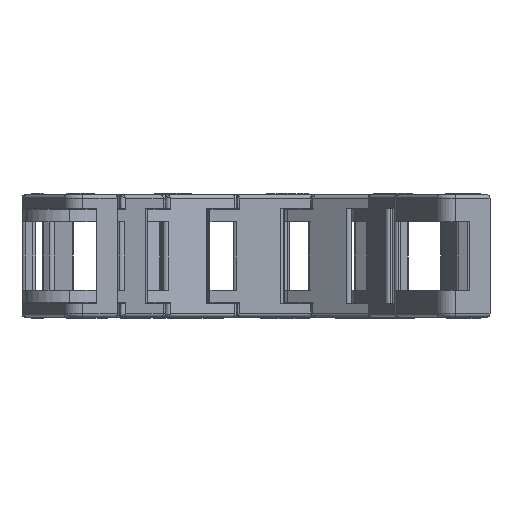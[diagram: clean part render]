
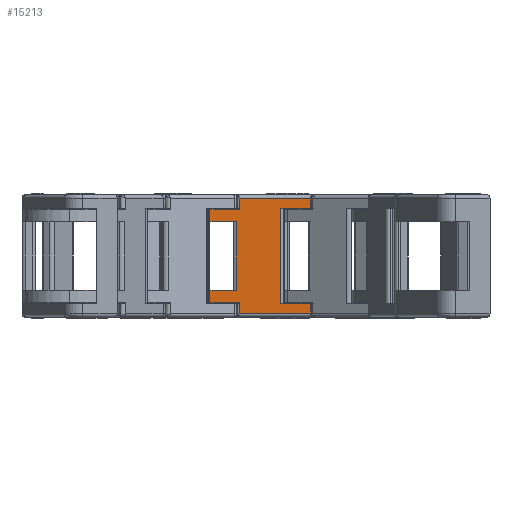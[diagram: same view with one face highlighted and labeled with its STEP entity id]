
A CAD part, left-side view. The second image highlights one B-rep face of the part: STEP entity #15213.
In plain terms, the highlighted planar face has unit normal (-0.999, 0.052, 0) as drawn and (0, -1, 0) by its records, which use the part's own axes.
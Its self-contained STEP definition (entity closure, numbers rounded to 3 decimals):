
#132 = EDGE_CURVE ( 'NONE', #16552, #5657, #16233, .T. ) ;
#165 = VERTEX_POINT ( 'NONE', #7979 ) ;
#335 = DIRECTION ( 'NONE',  ( 1., 0., 0. ) ) ;
#441 = EDGE_CURVE ( 'NONE', #10027, #6988, #15550, .T. ) ;
#669 = ORIENTED_EDGE ( 'NONE', *, *, #10591, .F. ) ;
#813 = CARTESIAN_POINT ( 'NONE',  ( -3.188, -7., 2.2 ) ) ;
#820 = CARTESIAN_POINT ( 'NONE',  ( 7.5, -7., 0.5 ) ) ;
#1014 = EDGE_CURVE ( 'NONE', #6988, #6779, #14643, .T. ) ;
#1246 = DIRECTION ( 'NONE',  ( 0., 0., 1. ) ) ;
#1948 = CARTESIAN_POINT ( 'NONE',  ( -3.188, -7., 15.8 ) ) ;
#2017 = DIRECTION ( 'NONE',  ( 0., 0., -1. ) ) ;
#2077 = DIRECTION ( 'NONE',  ( 0., 0., 1. ) ) ;
#2084 = VERTEX_POINT ( 'NONE', #5328 ) ;
#2241 = EDGE_CURVE ( 'NONE', #2859, #165, #12353, .T. ) ;
#2354 = CARTESIAN_POINT ( 'NONE',  ( -3.188, -7., 14. ) ) ;
#2414 = VERTEX_POINT ( 'NONE', #6615 ) ;
#2493 = ORIENTED_EDGE ( 'NONE', *, *, #13894, .T. ) ;
#2604 = EDGE_CURVE ( 'NONE', #2084, #165, #11972, .T. ) ;
#2743 = VECTOR ( 'NONE', #12663, 1000. ) ;
#2759 = LINE ( 'NONE', #10015, #2743 ) ;
#2859 = VERTEX_POINT ( 'NONE', #12789 ) ;
#2927 = EDGE_CURVE ( 'NONE', #14038, #2859, #11318, .T. ) ;
#3570 = DIRECTION ( 'NONE',  ( 1., 0., 0. ) ) ;
#4030 = DIRECTION ( 'NONE',  ( 0., 0., -1. ) ) ;
#4228 = ORIENTED_EDGE ( 'NONE', *, *, #2241, .T. ) ;
#4243 = CARTESIAN_POINT ( 'NONE',  ( -7.5, -7., 4. ) ) ;
#4255 = CARTESIAN_POINT ( 'NONE',  ( -7.5, -7., 17.5 ) ) ;
#4361 = ORIENTED_EDGE ( 'NONE', *, *, #16457, .T. ) ;
#4431 = DIRECTION ( 'NONE',  ( 0., 0., -1. ) ) ;
#4566 = ORIENTED_EDGE ( 'NONE', *, *, #2927, .T. ) ;
#5174 = ORIENTED_EDGE ( 'NONE', *, *, #10343, .F. ) ;
#5258 = ORIENTED_EDGE ( 'NONE', *, *, #2604, .F. ) ;
#5284 = CARTESIAN_POINT ( 'NONE',  ( -3.601, -7., 9. ) ) ;
#5328 = CARTESIAN_POINT ( 'NONE',  ( -7.5, -7., 4. ) ) ;
#5412 = VERTEX_POINT ( 'NONE', #8232 ) ;
#5657 = VERTEX_POINT ( 'NONE', #14730 ) ;
#5703 = CARTESIAN_POINT ( 'NONE',  ( -3.188, -7., 2.2 ) ) ;
#5792 = LINE ( 'NONE', #13950, #5858 ) ;
#5850 = DIRECTION ( 'NONE',  ( 1., 0., 0. ) ) ;
#5858 = VECTOR ( 'NONE', #9973, 1000. ) ;
#5913 = DIRECTION ( 'NONE',  ( 1., 0., 0. ) ) ;
#5939 = CARTESIAN_POINT ( 'NONE',  ( -3.188, -7., 4. ) ) ;
#6059 = CARTESIAN_POINT ( 'NONE',  ( -7.5, -7., 14. ) ) ;
#6088 = CARTESIAN_POINT ( 'NONE',  ( -7.5, -7., 14. ) ) ;
#6120 = VECTOR ( 'NONE', #14433, 1000. ) ;
#6136 = LINE ( 'NONE', #7947, #6120 ) ;
#6214 = DIRECTION ( 'NONE',  ( 0., 0., 1. ) ) ;
#6615 = CARTESIAN_POINT ( 'NONE',  ( -7.5, -7., 2.2 ) ) ;
#6779 = VERTEX_POINT ( 'NONE', #13124 ) ;
#6903 = DIRECTION ( 'NONE',  ( 0., 1., 0. ) ) ;
#6988 = VERTEX_POINT ( 'NONE', #12377 ) ;
#7205 = CARTESIAN_POINT ( 'NONE',  ( -7.5, -7., 14. ) ) ;
#7630 = ORIENTED_EDGE ( 'NONE', *, *, #132, .F. ) ;
#7947 = CARTESIAN_POINT ( 'NONE',  ( -7.5, -7., 2. ) ) ;
#7979 = CARTESIAN_POINT ( 'NONE',  ( -3.601, -7., 4. ) ) ;
#8007 = FACE_OUTER_BOUND ( 'NONE', #15708, .T. ) ;
#8232 = CARTESIAN_POINT ( 'NONE',  ( -7.5, -7., 15.8 ) ) ;
#8241 = EDGE_CURVE ( 'NONE', #5412, #16998, #2759, .T. ) ;
#8336 = CARTESIAN_POINT ( 'NONE',  ( -7.5, -7., 4. ) ) ;
#8471 = CARTESIAN_POINT ( 'NONE',  ( -7.5, -7., 4. ) ) ;
#9219 = VECTOR ( 'NONE', #5913, 1000. ) ;
#9315 = LINE ( 'NONE', #15197, #9219 ) ;
#9632 = CARTESIAN_POINT ( 'NONE',  ( -3.188, -7., 0.5 ) ) ;
#9922 = ORIENTED_EDGE ( 'NONE', *, *, #10777, .T. ) ;
#9973 = DIRECTION ( 'NONE',  ( 0., 0., 1. ) ) ;
#10015 = CARTESIAN_POINT ( 'NONE',  ( -3.188, -7., 15.8 ) ) ;
#10027 = VERTEX_POINT ( 'NONE', #16026 ) ;
#10208 = VERTEX_POINT ( 'NONE', #813 ) ;
#10343 = EDGE_CURVE ( 'NONE', #13594, #14015, #16467, .T. ) ;
#10377 = LINE ( 'NONE', #5703, #10442 ) ;
#10442 = VECTOR ( 'NONE', #16312, 1000. ) ;
#10591 = EDGE_CURVE ( 'NONE', #16998, #16552, #16074, .T. ) ;
#10777 = EDGE_CURVE ( 'NONE', #2084, #2414, #15786, .T. ) ;
#10996 = VECTOR ( 'NONE', #2017, 1000. ) ;
#11052 = LINE ( 'NONE', #5939, #10996 ) ;
#11208 = VECTOR ( 'NONE', #5850, 1000. ) ;
#11318 = LINE ( 'NONE', #7205, #11208 ) ;
#11462 = EDGE_CURVE ( 'NONE', #14038, #5412, #14612, .T. ) ;
#11777 = VECTOR ( 'NONE', #335, 1000. ) ;
#11895 = VERTEX_POINT ( 'NONE', #9632 ) ;
#11900 = ORIENTED_EDGE ( 'NONE', *, *, #1014, .T. ) ;
#11903 = ORIENTED_EDGE ( 'NONE', *, *, #13561, .T. ) ;
#11972 = LINE ( 'NONE', #8471, #11777 ) ;
#12112 = DIRECTION ( 'NONE',  ( 1., 0., 0. ) ) ;
#12341 = VECTOR ( 'NONE', #15833, 1000. ) ;
#12353 = LINE ( 'NONE', #5284, #12341 ) ;
#12377 = CARTESIAN_POINT ( 'NONE',  ( 2.923, -7., 16. ) ) ;
#12663 = DIRECTION ( 'NONE',  ( 1., 0., 0. ) ) ;
#12672 = CARTESIAN_POINT ( 'NONE',  ( 7.5, -7., 2. ) ) ;
#12690 = ORIENTED_EDGE ( 'NONE', *, *, #441, .T. ) ;
#12754 = AXIS2_PLACEMENT_3D ( 'NONE', #4243, #6903, #16156 ) ;
#12789 = CARTESIAN_POINT ( 'NONE',  ( -3.601, -7., 14. ) ) ;
#13124 = CARTESIAN_POINT ( 'NONE',  ( 7.5, -7., 16. ) ) ;
#13279 = CARTESIAN_POINT ( 'NONE',  ( 7.5, -7., 4. ) ) ;
#13561 = EDGE_CURVE ( 'NONE', #10208, #11895, #11052, .T. ) ;
#13594 = VERTEX_POINT ( 'NONE', #12672 ) ;
#13894 = EDGE_CURVE ( 'NONE', #2414, #10208, #10377, .T. ) ;
#13950 = CARTESIAN_POINT ( 'NONE',  ( 7.5, -7., 14. ) ) ;
#14015 = VERTEX_POINT ( 'NONE', #820 ) ;
#14038 = VERTEX_POINT ( 'NONE', #6088 ) ;
#14433 = DIRECTION ( 'NONE',  ( 1., 0., 0. ) ) ;
#14462 = EDGE_CURVE ( 'NONE', #11895, #14015, #9315, .T. ) ;
#14558 = VECTOR ( 'NONE', #2077, 1000. ) ;
#14582 = VECTOR ( 'NONE', #3570, 1000. ) ;
#14612 = LINE ( 'NONE', #6059, #14558 ) ;
#14643 = LINE ( 'NONE', #16723, #14582 ) ;
#14730 = CARTESIAN_POINT ( 'NONE',  ( 7.5, -7., 17.5 ) ) ;
#14774 = ORIENTED_EDGE ( 'NONE', *, *, #8241, .F. ) ;
#14842 = PLANE ( 'NONE',  #12754 ) ;
#15107 = ORIENTED_EDGE ( 'NONE', *, *, #14462, .T. ) ;
#15197 = CARTESIAN_POINT ( 'NONE',  ( -7.5, -7., 0.5 ) ) ;
#15213 = ADVANCED_FACE ( 'NONE', ( #8007 ), #14842, .F. ) ;
#15517 = VECTOR ( 'NONE', #1246, 1000. ) ;
#15550 = LINE ( 'NONE', #15995, #15517 ) ;
#15611 = CARTESIAN_POINT ( 'NONE',  ( -3.188, -7., 17.5 ) ) ;
#15708 = EDGE_LOOP ( 'NONE', ( #9922, #2493, #11903, #15107, #5174, #15760, #12690, #11900, #4361, #7630, #669, #14774, #16632, #4566, #4228, #5258 ) ) ;
#15743 = VECTOR ( 'NONE', #4431, 1000. ) ;
#15760 = ORIENTED_EDGE ( 'NONE', *, *, #16231, .F. ) ;
#15786 = LINE ( 'NONE', #8336, #15743 ) ;
#15833 = DIRECTION ( 'NONE',  ( 0., 0., -1. ) ) ;
#15995 = CARTESIAN_POINT ( 'NONE',  ( 2.923, -7., 4. ) ) ;
#16026 = CARTESIAN_POINT ( 'NONE',  ( 2.923, -7., 2. ) ) ;
#16058 = VECTOR ( 'NONE', #6214, 1000. ) ;
#16074 = LINE ( 'NONE', #2354, #16058 ) ;
#16156 = DIRECTION ( 'NONE',  ( -1., 0., 0. ) ) ;
#16211 = VECTOR ( 'NONE', #12112, 1000. ) ;
#16231 = EDGE_CURVE ( 'NONE', #10027, #13594, #6136, .T. ) ;
#16233 = LINE ( 'NONE', #4255, #16211 ) ;
#16312 = DIRECTION ( 'NONE',  ( 1., 0., 0. ) ) ;
#16454 = VECTOR ( 'NONE', #4030, 1000. ) ;
#16457 = EDGE_CURVE ( 'NONE', #6779, #5657, #5792, .T. ) ;
#16467 = LINE ( 'NONE', #13279, #16454 ) ;
#16552 = VERTEX_POINT ( 'NONE', #15611 ) ;
#16632 = ORIENTED_EDGE ( 'NONE', *, *, #11462, .F. ) ;
#16723 = CARTESIAN_POINT ( 'NONE',  ( -7.5, -7., 16. ) ) ;
#16998 = VERTEX_POINT ( 'NONE', #1948 ) ;
